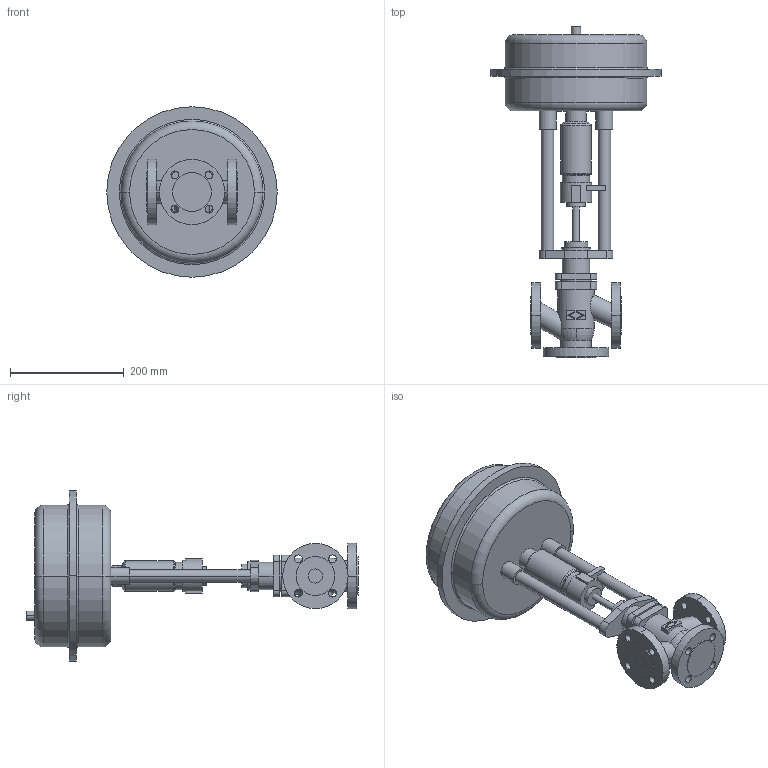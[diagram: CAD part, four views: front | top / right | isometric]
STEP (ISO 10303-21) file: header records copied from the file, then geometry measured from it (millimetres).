
FILE_DESCRIPTION(('OneSpaceDesigner STEP Export'),'2;1');
FILE_NAME('c000000682.stp','2006-09-19T10:12:14',(''),(''),'OneSpace Designer STEP processor for AP214 (Solid Model)','OneSpace Designer 13.20A 18-Aug-2005 (C) CoCreate Software GmbH','');
FILE_SCHEMA(('AUTOMOTIVE_DESIGN { 1 0 10303 214 1 1 1 1 }'));
Length unit declared in the file: millimetre
Products named in the file (2): 1; 2
Bounding box: 300 x 584.6 x 300 mm (x, y, z)
Volume: 8569142.3 mm3; surface area: 456248.8 mm2
Topology: 2 solids, 2 shells, 199 faces, 480 edges, 314 vertices
Faces by surface type: cylinder 100, plane 77, torus 18, cone 4
Entity records: 5500 total; most frequent: CARTESIAN_POINT 1198, ORIENTED_EDGE 960, DIRECTION 784, EDGE_CURVE 480, VERTEX_POINT 314, AXIS2_PLACEMENT_3D 285, EDGE_LOOP 252, VECTOR 214
